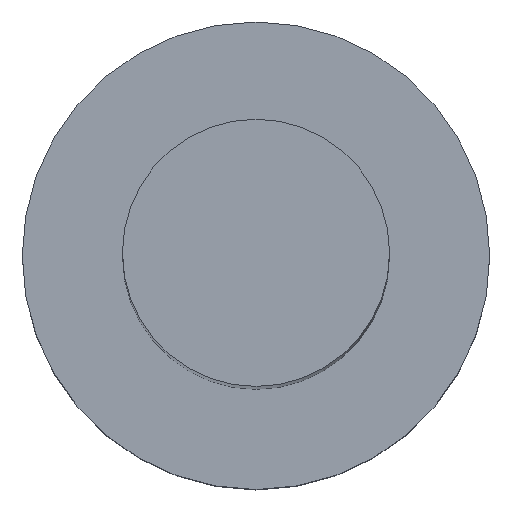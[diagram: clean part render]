
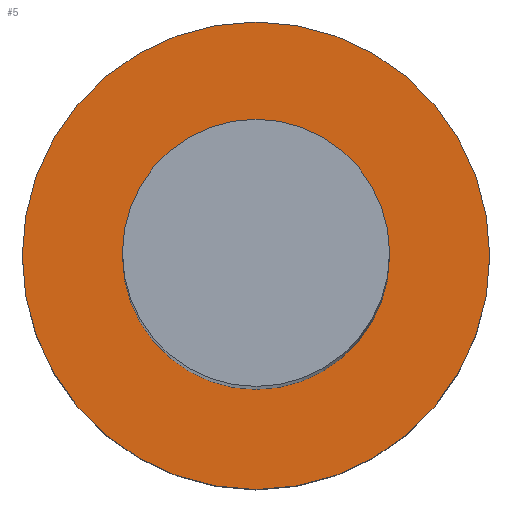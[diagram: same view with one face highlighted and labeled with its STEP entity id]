
A CAD part, top view. The second image highlights one B-rep face of the part: STEP entity #5.
In plain terms, the highlighted planar face has unit normal (0, 0, 1).
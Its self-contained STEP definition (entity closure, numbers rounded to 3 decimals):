
#1 = CIRCLE ( 'NONE', #186, 2. ) ;
#5 = ADVANCED_FACE ( 'NONE', ( #160, #221 ), #138, .T. ) ;
#9 = CARTESIAN_POINT ( 'NONE',  ( 2., 0., 0. ) ) ;
#11 = DIRECTION ( 'NONE',  ( 1., 0., 0. ) ) ;
#14 = CARTESIAN_POINT ( 'NONE',  ( 3.5, 0., 0. ) ) ;
#15 = DIRECTION ( 'NONE',  ( 1., 0., 0. ) ) ;
#42 = DIRECTION ( 'NONE',  ( 1., 0., 0. ) ) ;
#43 = VERTEX_POINT ( 'NONE', #144 ) ;
#45 = VERTEX_POINT ( 'NONE', #86 ) ;
#47 = DIRECTION ( 'NONE',  ( 0., 0., 1. ) ) ;
#52 = CIRCLE ( 'NONE', #158, 3.5 ) ;
#63 = AXIS2_PLACEMENT_3D ( 'NONE', #126, #47, #189 ) ;
#65 = ORIENTED_EDGE ( 'NONE', *, *, #66, .F. ) ;
#66 = EDGE_CURVE ( 'NONE', #220, #43, #140, .T. ) ;
#68 = EDGE_CURVE ( 'NONE', #43, #220, #1, .T. ) ;
#84 = DIRECTION ( 'NONE',  ( 0., 0., 1. ) ) ;
#86 = CARTESIAN_POINT ( 'NONE',  ( -3.5, 0., 0. ) ) ;
#104 = DIRECTION ( 'NONE',  ( 1., 0., 0. ) ) ;
#105 = EDGE_CURVE ( 'NONE', #181, #45, #172, .T. ) ;
#106 = CARTESIAN_POINT ( 'NONE',  ( 0., 0., 0. ) ) ;
#119 = ORIENTED_EDGE ( 'NONE', *, *, #239, .T. ) ;
#126 = CARTESIAN_POINT ( 'NONE',  ( 0., 0., 0. ) ) ;
#138 = PLANE ( 'NONE',  #223 ) ;
#140 = CIRCLE ( 'NONE', #196, 2. ) ;
#144 = CARTESIAN_POINT ( 'NONE',  ( -2., 0., 0. ) ) ;
#147 = CARTESIAN_POINT ( 'NONE',  ( 0., 0., 0. ) ) ;
#158 = AXIS2_PLACEMENT_3D ( 'NONE', #106, #84, #104 ) ;
#160 = FACE_BOUND ( 'NONE', #254, .T. ) ;
#165 = DIRECTION ( 'NONE',  ( 0., 0., 1. ) ) ;
#172 = CIRCLE ( 'NONE', #63, 3.5 ) ;
#179 = EDGE_LOOP ( 'NONE', ( #119, #182 ) ) ;
#181 = VERTEX_POINT ( 'NONE', #14 ) ;
#182 = ORIENTED_EDGE ( 'NONE', *, *, #105, .T. ) ;
#186 = AXIS2_PLACEMENT_3D ( 'NONE', #187, #165, #11 ) ;
#187 = CARTESIAN_POINT ( 'NONE',  ( 0., 0., 0. ) ) ;
#189 = DIRECTION ( 'NONE',  ( 1., 0., 0. ) ) ;
#196 = AXIS2_PLACEMENT_3D ( 'NONE', #147, #210, #15 ) ;
#200 = DIRECTION ( 'NONE',  ( 0., 0., 1. ) ) ;
#210 = DIRECTION ( 'NONE',  ( 0., 0., 1. ) ) ;
#220 = VERTEX_POINT ( 'NONE', #9 ) ;
#221 = FACE_OUTER_BOUND ( 'NONE', #179, .T. ) ;
#223 = AXIS2_PLACEMENT_3D ( 'NONE', #235, #200, #42 ) ;
#235 = CARTESIAN_POINT ( 'NONE',  ( 0., 0., 0. ) ) ;
#238 = ORIENTED_EDGE ( 'NONE', *, *, #68, .F. ) ;
#239 = EDGE_CURVE ( 'NONE', #45, #181, #52, .T. ) ;
#254 = EDGE_LOOP ( 'NONE', ( #238, #65 ) ) ;
